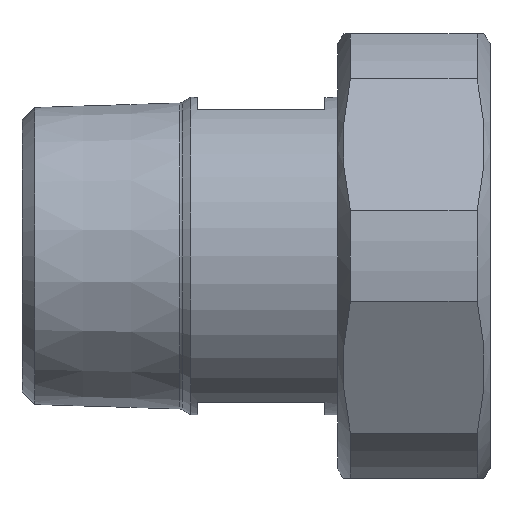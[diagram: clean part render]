
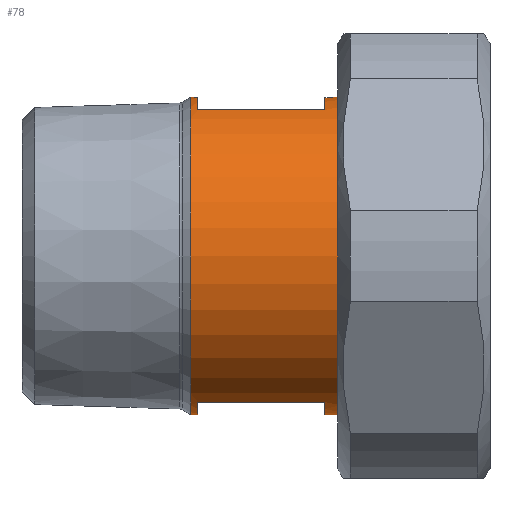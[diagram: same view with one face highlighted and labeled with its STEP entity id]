
A CAD part, left-side view. The second image highlights one B-rep face of the part: STEP entity #78.
In plain terms, the highlighted cylindrical face has radius 25 mm (diameter 50 mm), a full revolution.
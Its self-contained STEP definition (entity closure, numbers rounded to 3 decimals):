
#78 = ADVANCED_FACE( '', ( #127, #128, #129, #130 ), #131, .T. );
#127 = FACE_OUTER_BOUND( '', #243, .T. );
#128 = FACE_BOUND( '', #244, .T. );
#129 = FACE_BOUND( '', #245, .T. );
#130 = FACE_OUTER_BOUND( '', #246, .T. );
#131 = CYLINDRICAL_SURFACE( '', #247, 25. );
#243 = EDGE_LOOP( '', ( #369 ) );
#244 = EDGE_LOOP( '', ( #370, #371, #372, #373 ) );
#245 = EDGE_LOOP( '', ( #374, #375, #376, #377 ) );
#246 = EDGE_LOOP( '', ( #378 ) );
#247 = AXIS2_PLACEMENT_3D( '', #379, #380, #381 );
#369 = ORIENTED_EDGE( '', *, *, #637, .F. );
#370 = ORIENTED_EDGE( '', *, *, #635, .T. );
#371 = ORIENTED_EDGE( '', *, *, #638, .T. );
#372 = ORIENTED_EDGE( '', *, *, #636, .T. );
#373 = ORIENTED_EDGE( '', *, *, #632, .F. );
#374 = ORIENTED_EDGE( '', *, *, #639, .T. );
#375 = ORIENTED_EDGE( '', *, *, #640, .T. );
#376 = ORIENTED_EDGE( '', *, *, #641, .T. );
#377 = ORIENTED_EDGE( '', *, *, #642, .F. );
#378 = ORIENTED_EDGE( '', *, *, #643, .T. );
#379 = CARTESIAN_POINT( '', ( 0., 0., 0. ) );
#380 = DIRECTION( '', ( 0., 1., 0. ) );
#381 = DIRECTION( '', ( 0., 0., -1. ) );
#632 = EDGE_CURVE( '', #707, #708, #709, .T. );
#635 = EDGE_CURVE( '', #707, #711, #714, .F. );
#636 = EDGE_CURVE( '', #712, #708, #715, .T. );
#637 = EDGE_CURVE( '', #716, #716, #717, .T. );
#638 = EDGE_CURVE( '', #711, #712, #718, .T. );
#639 = EDGE_CURVE( '', #719, #720, #721, .F. );
#640 = EDGE_CURVE( '', #720, #722, #723, .T. );
#641 = EDGE_CURVE( '', #722, #724, #725, .T. );
#642 = EDGE_CURVE( '', #719, #724, #726, .T. );
#643 = EDGE_CURVE( '', #727, #727, #728, .T. );
#707 = VERTEX_POINT( '', #837 );
#708 = VERTEX_POINT( '', #838 );
#709 = CIRCLE( '', #839, 25. );
#711 = VERTEX_POINT( '', #842 );
#712 = VERTEX_POINT( '', #843 );
#714 = LINE( '', #846, #847 );
#715 = LINE( '', #848, #849 );
#716 = VERTEX_POINT( '', #850 );
#717 = CIRCLE( '', #851, 25. );
#718 = CIRCLE( '', #852, 25. );
#719 = VERTEX_POINT( '', #853 );
#720 = VERTEX_POINT( '', #854 );
#721 = LINE( '', #855, #856 );
#722 = VERTEX_POINT( '', #857 );
#723 = CIRCLE( '', #858, 25. );
#724 = VERTEX_POINT( '', #859 );
#725 = LINE( '', #860, #861 );
#726 = CIRCLE( '', #862, 25. );
#727 = VERTEX_POINT( '', #863 );
#728 = CIRCLE( '', #864, 25. );
#837 = CARTESIAN_POINT( '', ( 9.798, 26., -23. ) );
#838 = CARTESIAN_POINT( '', ( -9.798, 26., -23. ) );
#839 = AXIS2_PLACEMENT_3D( '', #1129, #1130, #1131 );
#842 = CARTESIAN_POINT( '', ( 9.798, 46., -23. ) );
#843 = CARTESIAN_POINT( '', ( -9.798, 46., -23. ) );
#846 = CARTESIAN_POINT( '', ( 9.798, 0., -23. ) );
#847 = VECTOR( '', #1134, 1000. );
#848 = CARTESIAN_POINT( '', ( -9.798, 0., -23. ) );
#849 = VECTOR( '', #1135, 1000. );
#850 = CARTESIAN_POINT( '', ( 0., 23.5, -25. ) );
#851 = AXIS2_PLACEMENT_3D( '', #1136, #1137, #1138 );
#852 = AXIS2_PLACEMENT_3D( '', #1139, #1140, #1141 );
#853 = CARTESIAN_POINT( '', ( -9.798, 26., 23. ) );
#854 = CARTESIAN_POINT( '', ( -9.798, 46., 23. ) );
#855 = CARTESIAN_POINT( '', ( -9.798, 0., 23. ) );
#856 = VECTOR( '', #1142, 1000. );
#857 = CARTESIAN_POINT( '', ( 9.798, 46., 23. ) );
#858 = AXIS2_PLACEMENT_3D( '', #1143, #1144, #1145 );
#859 = CARTESIAN_POINT( '', ( 9.798, 26., 23. ) );
#860 = CARTESIAN_POINT( '', ( 9.798, 0., 23. ) );
#861 = VECTOR( '', #1146, 1000. );
#862 = AXIS2_PLACEMENT_3D( '', #1147, #1148, #1149 );
#863 = CARTESIAN_POINT( '', ( 0., 47.137, -25. ) );
#864 = AXIS2_PLACEMENT_3D( '', #1150, #1151, #1152 );
#1129 = CARTESIAN_POINT( '', ( 0., 26., 0. ) );
#1130 = DIRECTION( '', ( 0., 1., 0. ) );
#1131 = DIRECTION( '', ( 0., 0., 1. ) );
#1134 = DIRECTION( '', ( 0., -1., 0. ) );
#1135 = DIRECTION( '', ( 0., -1., 0. ) );
#1136 = CARTESIAN_POINT( '', ( 0., 23.5, 0. ) );
#1137 = DIRECTION( '', ( 0., -1., 0. ) );
#1138 = DIRECTION( '', ( 0., 0., -1. ) );
#1139 = CARTESIAN_POINT( '', ( 0., 46., 0. ) );
#1140 = DIRECTION( '', ( 0., 1., 0. ) );
#1141 = DIRECTION( '', ( 0., 0., 1. ) );
#1142 = DIRECTION( '', ( 0., -1., 0. ) );
#1143 = CARTESIAN_POINT( '', ( 0., 46., 0. ) );
#1144 = DIRECTION( '', ( 0., 1., 0. ) );
#1145 = DIRECTION( '', ( 0., 0., 1. ) );
#1146 = DIRECTION( '', ( 0., -1., 0. ) );
#1147 = CARTESIAN_POINT( '', ( 0., 26., 0. ) );
#1148 = DIRECTION( '', ( 0., 1., 0. ) );
#1149 = DIRECTION( '', ( 0., 0., 1. ) );
#1150 = CARTESIAN_POINT( '', ( 0., 47.137, 0. ) );
#1151 = DIRECTION( '', ( 0., -1., 0. ) );
#1152 = DIRECTION( '', ( 0., 0., -1. ) );
